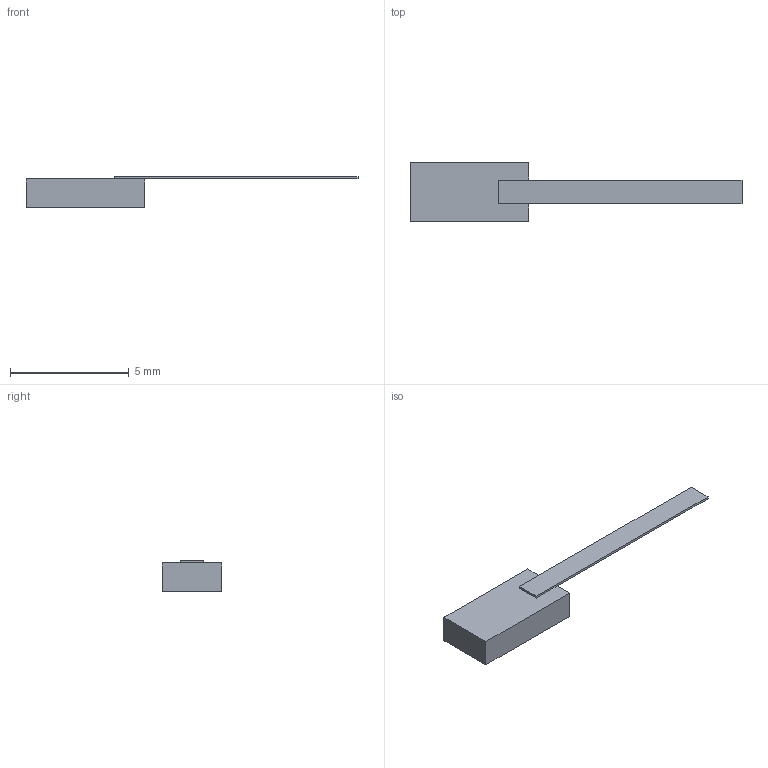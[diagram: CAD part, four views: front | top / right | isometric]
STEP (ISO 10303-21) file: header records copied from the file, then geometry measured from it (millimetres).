
FILE_DESCRIPTION(('STEP AP203'), '1');
FILE_NAME('Ð1-17-10-1', '', ('UNSPECIFIED'), ('UNSPECIFIED'), 'ASCON STEP Converter 1.6', 'ASCON Math Kernel', '');
FILE_SCHEMA(('CONFIG_CONTROL_DESIGN'));
Length unit declared in the file: millimetre
Bounding box: 14 x 2.5 x 1.3 mm (x, y, z)
Volume: 16 mm3; surface area: 65.7 mm2
Topology: 1 solids, 2 shells, 31 faces, 79 edges, 52 vertices
Faces by surface type: plane 27, cylinder 4
Entity records: 1219 total; most frequent: CARTESIAN_POINT 163, ORIENTED_EDGE 158, DIRECTION 151, EDGE_CURVE 79, LINE 71, VECTOR 71, VERTEX_POINT 52, AXIS2_PLACEMENT_3D 40
